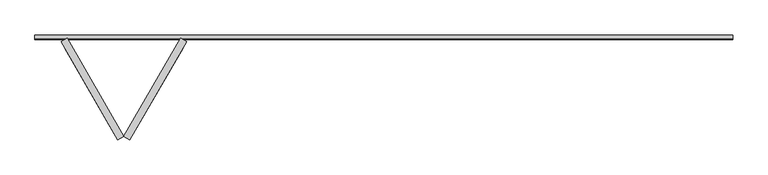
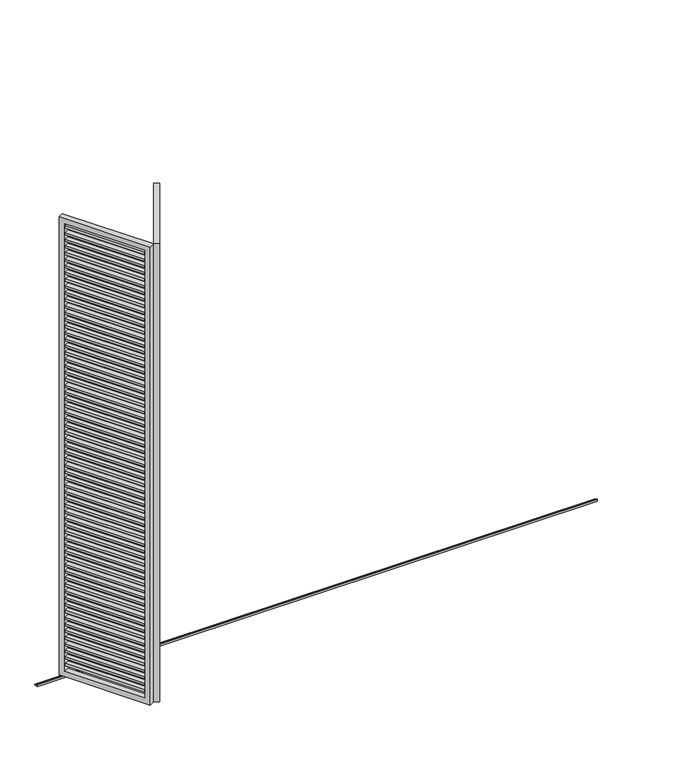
"""IFC4 building model written with IfcOpenShell, lengths in millimetres: proxy geometry, Renson_Amani_Loggia_Plano_Folding : Renson_Amani_Loggia_Plano_Folding."""

from ifc_helpers import new_model, si_unit, frame, origin, place, context, project, spatial, polyline, outline, extrude, source, transform, mapped, element, save


def generic_models_aa4b12a0(model_context):
    return source(origin(), model_context, "Body", "SweptSolid", [
        extrude(outline(polyline([(667.6721051, 546.5254963), (696.2509434, 530.0254963), (411.2509434, 36.3910162), (382.6721051, 52.8910162), (667.6721051, 546.5254963)])), frame((0.0, 0.0, 2727.0), z_axis=(0.0, 0.0, 1.0), x_axis=(1.0, 0.0, 0.0)), (0.0, 0.0, 1.0), 16.0),
        extrude(outline(polyline([(667.6721051, 546.5254963), (696.2509434, 530.0254963), (411.2509434, 36.3910162), (382.6721051, 52.8910162), (667.6721051, 546.5254963)])), frame((0.0, 0.0, 2677.0), z_axis=(0.0, 0.0, 1.0), x_axis=(1.0, 0.0, 0.0)), (0.0, 0.0, 1.0), 16.0),
        extrude(outline(polyline([(667.6721051, 546.5254963), (696.2509434, 530.0254963), (411.2509434, 36.3910162), (382.6721051, 52.8910162), (667.6721051, 546.5254963)])), frame((0.0, 0.0, 2627.0), z_axis=(0.0, 0.0, 1.0), x_axis=(1.0, 0.0, 0.0)), (0.0, 0.0, 1.0), 16.0),
        extrude(outline(polyline([(667.6721051, 546.5254963), (696.2509434, 530.0254963), (411.2509434, 36.3910162), (382.6721051, 52.8910162), (667.6721051, 546.5254963)])), frame((0.0, 0.0, 2577.0), z_axis=(0.0, 0.0, 1.0), x_axis=(1.0, 0.0, 0.0)), (0.0, 0.0, 1.0), 16.0),
        extrude(outline(polyline([(667.6721051, 546.5254963), (696.2509434, 530.0254963), (411.2509434, 36.3910162), (382.6721051, 52.8910162), (667.6721051, 546.5254963)])), frame((0.0, 0.0, 2527.0), z_axis=(0.0, 0.0, 1.0), x_axis=(1.0, 0.0, 0.0)), (0.0, 0.0, 1.0), 16.0),
        extrude(outline(polyline([(667.6721051, 546.5254963), (696.2509434, 530.0254963), (411.2509434, 36.3910162), (382.6721051, 52.8910162), (667.6721051, 546.5254963)])), frame((0.0, 0.0, 2477.0), z_axis=(0.0, 0.0, 1.0), x_axis=(1.0, 0.0, 0.0)), (0.0, 0.0, 1.0), 16.0),
        extrude(outline(polyline([(667.6721051, 546.5254963), (696.2509434, 530.0254963), (411.2509434, 36.3910162), (382.6721051, 52.8910162), (667.6721051, 546.5254963)])), frame((0.0, 0.0, 2427.0), z_axis=(0.0, 0.0, 1.0), x_axis=(1.0, 0.0, 0.0)), (0.0, 0.0, 1.0), 16.0),
        extrude(outline(polyline([(667.6721051, 546.5254963), (696.2509434, 530.0254963), (411.2509434, 36.3910162), (382.6721051, 52.8910162), (667.6721051, 546.5254963)])), frame((0.0, 0.0, 2377.0), z_axis=(0.0, 0.0, 1.0), x_axis=(1.0, 0.0, 0.0)), (0.0, 0.0, 1.0), 16.0),
        extrude(outline(polyline([(667.6721051, 546.5254963), (696.2509434, 530.0254963), (411.2509434, 36.3910162), (382.6721051, 52.8910162), (667.6721051, 546.5254963)])), frame((0.0, 0.0, 2327.0), z_axis=(0.0, 0.0, 1.0), x_axis=(1.0, 0.0, 0.0)), (0.0, 0.0, 1.0), 16.0),
        extrude(outline(polyline([(667.6721051, 546.5254963), (696.2509434, 530.0254963), (411.2509434, 36.3910162), (382.6721051, 52.8910162), (667.6721051, 546.5254963)])), frame((0.0, 0.0, 2277.0), z_axis=(0.0, 0.0, 1.0), x_axis=(1.0, 0.0, 0.0)), (0.0, 0.0, 1.0), 16.0),
        extrude(outline(polyline([(667.6721051, 546.5254963), (696.2509434, 530.0254963), (411.2509434, 36.3910162), (382.6721051, 52.8910162), (667.6721051, 546.5254963)])), frame((0.0, 0.0, 2227.0), z_axis=(0.0, 0.0, 1.0), x_axis=(1.0, 0.0, 0.0)), (0.0, 0.0, 1.0), 16.0),
        extrude(outline(polyline([(667.6721051, 546.5254963), (696.2509434, 530.0254963), (411.2509434, 36.3910162), (382.6721051, 52.8910162), (667.6721051, 546.5254963)])), frame((0.0, 0.0, 2177.0), z_axis=(0.0, 0.0, 1.0), x_axis=(1.0, 0.0, 0.0)), (0.0, 0.0, 1.0), 16.0),
        extrude(outline(polyline([(667.6721051, 546.5254963), (696.2509434, 530.0254963), (411.2509434, 36.3910162), (382.6721051, 52.8910162), (667.6721051, 546.5254963)])), frame((0.0, 0.0, 2127.0), z_axis=(0.0, 0.0, 1.0), x_axis=(1.0, 0.0, 0.0)), (0.0, 0.0, 1.0), 16.0),
        extrude(outline(polyline([(667.6721051, 546.5254963), (696.2509434, 530.0254963), (411.2509434, 36.3910162), (382.6721051, 52.8910162), (667.6721051, 546.5254963)])), frame((0.0, 0.0, 2077.0), z_axis=(0.0, 0.0, 1.0), x_axis=(1.0, 0.0, 0.0)), (0.0, 0.0, 1.0), 16.0),
        extrude(outline(polyline([(667.6721051, 546.5254963), (696.2509434, 530.0254963), (411.2509434, 36.3910162), (382.6721051, 52.8910162), (667.6721051, 546.5254963)])), frame((0.0, 0.0, 2027.0), z_axis=(0.0, 0.0, 1.0), x_axis=(1.0, 0.0, 0.0)), (0.0, 0.0, 1.0), 16.0),
        extrude(outline(polyline([(667.6721051, 546.5254963), (696.2509434, 530.0254963), (411.2509434, 36.3910162), (382.6721051, 52.8910162), (667.6721051, 546.5254963)])), frame((0.0, 0.0, 1977.0), z_axis=(0.0, 0.0, 1.0), x_axis=(1.0, 0.0, 0.0)), (0.0, 0.0, 1.0), 16.0),
        extrude(outline(polyline([(667.6721051, 546.5254963), (696.2509434, 530.0254963), (411.2509434, 36.3910162), (382.6721051, 52.8910162), (667.6721051, 546.5254963)])), frame((0.0, 0.0, 1927.0), z_axis=(0.0, 0.0, 1.0), x_axis=(1.0, 0.0, 0.0)), (0.0, 0.0, 1.0), 16.0),
        extrude(outline(polyline([(667.6721051, 546.5254963), (696.2509434, 530.0254963), (411.2509434, 36.3910162), (382.6721051, 52.8910162), (667.6721051, 546.5254963)])), frame((0.0, 0.0, 1877.0), z_axis=(0.0, 0.0, 1.0), x_axis=(1.0, 0.0, 0.0)), (0.0, 0.0, 1.0), 16.0),
        extrude(outline(polyline([(667.6721051, 546.5254963), (696.2509434, 530.0254963), (411.2509434, 36.3910162), (382.6721051, 52.8910162), (667.6721051, 546.5254963)])), frame((0.0, 0.0, 1827.0), z_axis=(0.0, 0.0, 1.0), x_axis=(1.0, 0.0, 0.0)), (0.0, 0.0, 1.0), 16.0),
        extrude(outline(polyline([(667.6721051, 546.5254963), (696.2509434, 530.0254963), (411.2509434, 36.3910162), (382.6721051, 52.8910162), (667.6721051, 546.5254963)])), frame((0.0, 0.0, 1777.0), z_axis=(0.0, 0.0, 1.0), x_axis=(1.0, 0.0, 0.0)), (0.0, 0.0, 1.0), 16.0),
        extrude(outline(polyline([(667.6721051, 546.5254963), (696.2509434, 530.0254963), (411.2509434, 36.3910162), (382.6721051, 52.8910162), (667.6721051, 546.5254963)])), frame((0.0, 0.0, 1727.0), z_axis=(0.0, 0.0, 1.0), x_axis=(1.0, 0.0, 0.0)), (0.0, 0.0, 1.0), 16.0),
        extrude(outline(polyline([(667.6721051, 546.5254963), (696.2509434, 530.0254963), (411.2509434, 36.3910162), (382.6721051, 52.8910162), (667.6721051, 546.5254963)])), frame((0.0, 0.0, 1677.0), z_axis=(0.0, 0.0, 1.0), x_axis=(1.0, 0.0, 0.0)), (0.0, 0.0, 1.0), 16.0),
        extrude(outline(polyline([(667.6721051, 546.5254963), (696.2509434, 530.0254963), (411.2509434, 36.3910162), (382.6721051, 52.8910162), (667.6721051, 546.5254963)])), frame((0.0, 0.0, 1627.0), z_axis=(0.0, 0.0, 1.0), x_axis=(1.0, 0.0, 0.0)), (0.0, 0.0, 1.0), 16.0),
        extrude(outline(polyline([(667.6721051, 546.5254963), (696.2509434, 530.0254963), (411.2509434, 36.3910162), (382.6721051, 52.8910162), (667.6721051, 546.5254963)])), frame((0.0, 0.0, 1577.0), z_axis=(0.0, 0.0, 1.0), x_axis=(1.0, 0.0, 0.0)), (0.0, 0.0, 1.0), 16.0),
        extrude(outline(polyline([(667.6721051, 546.5254963), (696.2509434, 530.0254963), (411.2509434, 36.3910162), (382.6721051, 52.8910162), (667.6721051, 546.5254963)])), frame((0.0, 0.0, 1527.0), z_axis=(0.0, 0.0, 1.0), x_axis=(1.0, 0.0, 0.0)), (0.0, 0.0, 1.0), 16.0),
        extrude(outline(polyline([(667.6721051, 546.5254963), (696.2509434, 530.0254963), (411.2509434, 36.3910162), (382.6721051, 52.8910162), (667.6721051, 546.5254963)])), frame((0.0, 0.0, 1477.0), z_axis=(0.0, 0.0, 1.0), x_axis=(1.0, 0.0, 0.0)), (0.0, 0.0, 1.0), 16.0),
        extrude(outline(polyline([(667.6721051, 546.5254963), (696.2509434, 530.0254963), (411.2509434, 36.3910162), (382.6721051, 52.8910162), (667.6721051, 546.5254963)])), frame((0.0, 0.0, 1427.0), z_axis=(0.0, 0.0, 1.0), x_axis=(1.0, 0.0, 0.0)), (0.0, 0.0, 1.0), 16.0),
        extrude(outline(polyline([(667.6721051, 546.5254963), (696.2509434, 530.0254963), (411.2509434, 36.3910162), (382.6721051, 52.8910162), (667.6721051, 546.5254963)])), frame((0.0, 0.0, 1377.0), z_axis=(0.0, 0.0, 1.0), x_axis=(1.0, 0.0, 0.0)), (0.0, 0.0, 1.0), 16.0),
        extrude(outline(polyline([(667.6721051, 546.5254963), (696.2509434, 530.0254963), (411.2509434, 36.3910162), (382.6721051, 52.8910162), (667.6721051, 546.5254963)])), frame((0.0, 0.0, 1327.0), z_axis=(0.0, 0.0, 1.0), x_axis=(1.0, 0.0, 0.0)), (0.0, 0.0, 1.0), 16.0),
        extrude(outline(polyline([(667.6721051, 546.5254963), (696.2509434, 530.0254963), (411.2509434, 36.3910162), (382.6721051, 52.8910162), (667.6721051, 546.5254963)])), frame((0.0, 0.0, 1277.0), z_axis=(0.0, 0.0, 1.0), x_axis=(1.0, 0.0, 0.0)), (0.0, 0.0, 1.0), 16.0),
        extrude(outline(polyline([(667.6721051, 546.5254963), (696.2509434, 530.0254963), (411.2509434, 36.3910162), (382.6721051, 52.8910162), (667.6721051, 546.5254963)])), frame((0.0, 0.0, 1227.0), z_axis=(0.0, 0.0, 1.0), x_axis=(1.0, 0.0, 0.0)), (0.0, 0.0, 1.0), 16.0),
        extrude(outline(polyline([(667.6721051, 546.5254963), (696.2509434, 530.0254963), (411.2509434, 36.3910162), (382.6721051, 52.8910162), (667.6721051, 546.5254963)])), frame((0.0, 0.0, 1177.0), z_axis=(0.0, 0.0, 1.0), x_axis=(1.0, 0.0, 0.0)), (0.0, 0.0, 1.0), 16.0),
        extrude(outline(polyline([(667.6721051, 546.5254963), (696.2509434, 530.0254963), (411.2509434, 36.3910162), (382.6721051, 52.8910162), (667.6721051, 546.5254963)])), frame((0.0, 0.0, 1127.0), z_axis=(0.0, 0.0, 1.0), x_axis=(1.0, 0.0, 0.0)), (0.0, 0.0, 1.0), 16.0),
        extrude(outline(polyline([(667.6721051, 546.5254963), (696.2509434, 530.0254963), (411.2509434, 36.3910162), (382.6721051, 52.8910162), (667.6721051, 546.5254963)])), frame((0.0, 0.0, 1077.0), z_axis=(0.0, 0.0, 1.0), x_axis=(1.0, 0.0, 0.0)), (0.0, 0.0, 1.0), 16.0),
        extrude(outline(polyline([(667.6721051, 546.5254963), (696.2509434, 530.0254963), (411.2509434, 36.3910162), (382.6721051, 52.8910162), (667.6721051, 546.5254963)])), frame((0.0, 0.0, 1027.0), z_axis=(0.0, 0.0, 1.0), x_axis=(1.0, 0.0, 0.0)), (0.0, 0.0, 1.0), 16.0),
        extrude(outline(polyline([(667.6721051, 546.5254963), (696.2509434, 530.0254963), (411.2509434, 36.3910162), (382.6721051, 52.8910162), (667.6721051, 546.5254963)])), frame((0.0, 0.0, 977.0), z_axis=(0.0, 0.0, 1.0), x_axis=(1.0, 0.0, 0.0)), (0.0, 0.0, 1.0), 16.0),
        extrude(outline(polyline([(667.6721051, 546.5254963), (696.2509434, 530.0254963), (411.2509434, 36.3910162), (382.6721051, 52.8910162), (667.6721051, 546.5254963)])), frame((0.0, 0.0, 927.0), z_axis=(0.0, 0.0, 1.0), x_axis=(1.0, 0.0, 0.0)), (0.0, 0.0, 1.0), 16.0),
        extrude(outline(polyline([(667.6721051, 546.5254963), (696.2509434, 530.0254963), (411.2509434, 36.3910162), (382.6721051, 52.8910162), (667.6721051, 546.5254963)])), frame((0.0, 0.0, 877.0), z_axis=(0.0, 0.0, 1.0), x_axis=(1.0, 0.0, 0.0)), (0.0, 0.0, 1.0), 16.0),
        extrude(outline(polyline([(667.6721051, 546.5254963), (696.2509434, 530.0254963), (411.2509434, 36.3910162), (382.6721051, 52.8910162), (667.6721051, 546.5254963)])), frame((0.0, 0.0, 827.0), z_axis=(0.0, 0.0, 1.0), x_axis=(1.0, 0.0, 0.0)), (0.0, 0.0, 1.0), 16.0),
        extrude(outline(polyline([(667.6721051, 546.5254963), (696.2509434, 530.0254963), (411.2509434, 36.3910162), (382.6721051, 52.8910162), (667.6721051, 546.5254963)])), frame((0.0, 0.0, 777.0), z_axis=(0.0, 0.0, 1.0), x_axis=(1.0, 0.0, 0.0)), (0.0, 0.0, 1.0), 16.0),
        extrude(outline(polyline([(667.6721051, 546.5254963), (696.2509434, 530.0254963), (411.2509434, 36.3910162), (382.6721051, 52.8910162), (667.6721051, 546.5254963)])), frame((0.0, 0.0, 727.0), z_axis=(0.0, 0.0, 1.0), x_axis=(1.0, 0.0, 0.0)), (0.0, 0.0, 1.0), 16.0),
        extrude(outline(polyline([(667.6721051, 546.5254963), (696.2509434, 530.0254963), (411.2509434, 36.3910162), (382.6721051, 52.8910162), (667.6721051, 546.5254963)])), frame((0.0, 0.0, 677.0), z_axis=(0.0, 0.0, 1.0), x_axis=(1.0, 0.0, 0.0)), (0.0, 0.0, 1.0), 16.0),
        extrude(outline(polyline([(667.6721051, 546.5254963), (696.2509434, 530.0254963), (411.2509434, 36.3910162), (382.6721051, 52.8910162), (667.6721051, 546.5254963)])), frame((0.0, 0.0, 627.0), z_axis=(0.0, 0.0, 1.0), x_axis=(1.0, 0.0, 0.0)), (0.0, 0.0, 1.0), 16.0),
        extrude(outline(polyline([(667.6721051, 546.5254963), (696.2509434, 530.0254963), (411.2509434, 36.3910162), (382.6721051, 52.8910162), (667.6721051, 546.5254963)])), frame((0.0, 0.0, 577.0), z_axis=(0.0, 0.0, 1.0), x_axis=(1.0, 0.0, 0.0)), (0.0, 0.0, 1.0), 16.0),
        extrude(outline(polyline([(667.6721051, 546.5254963), (696.2509434, 530.0254963), (411.2509434, 36.3910162), (382.6721051, 52.8910162), (667.6721051, 546.5254963)])), frame((0.0, 0.0, 527.0), z_axis=(0.0, 0.0, 1.0), x_axis=(1.0, 0.0, 0.0)), (0.0, 0.0, 1.0), 16.0),
        extrude(outline(polyline([(667.6721051, 546.5254963), (696.2509434, 530.0254963), (411.2509434, 36.3910162), (382.6721051, 52.8910162), (667.6721051, 546.5254963)])), frame((0.0, 0.0, 477.0), z_axis=(0.0, 0.0, 1.0), x_axis=(1.0, 0.0, 0.0)), (0.0, 0.0, 1.0), 16.0),
        extrude(outline(polyline([(667.6721051, 546.5254963), (696.2509434, 530.0254963), (411.2509434, 36.3910162), (382.6721051, 52.8910162), (667.6721051, 546.5254963)])), frame((0.0, 0.0, 427.0), z_axis=(0.0, 0.0, 1.0), x_axis=(1.0, 0.0, 0.0)), (0.0, 0.0, 1.0), 16.0),
        extrude(outline(polyline([(667.6721051, 546.5254963), (696.2509434, 530.0254963), (411.2509434, 36.3910162), (382.6721051, 52.8910162), (667.6721051, 546.5254963)])), frame((0.0, 0.0, 377.0), z_axis=(0.0, 0.0, 1.0), x_axis=(1.0, 0.0, 0.0)), (0.0, 0.0, 1.0), 16.0),
        extrude(outline(polyline([(667.6721051, 546.5254963), (696.2509434, 530.0254963), (411.2509434, 36.3910162), (382.6721051, 52.8910162), (667.6721051, 546.5254963)])), frame((0.0, 0.0, 327.0), z_axis=(0.0, 0.0, 1.0), x_axis=(1.0, 0.0, 0.0)), (0.0, 0.0, 1.0), 16.0),
        extrude(outline(polyline([(667.6721051, 546.5254963), (696.2509434, 530.0254963), (411.2509434, 36.3910162), (382.6721051, 52.8910162), (667.6721051, 546.5254963)])), frame((0.0, 0.0, 277.0), z_axis=(0.0, 0.0, 1.0), x_axis=(1.0, 0.0, 0.0)), (0.0, 0.0, 1.0), 16.0),
        extrude(outline(polyline([(667.6721051, 546.5254963), (696.2509434, 530.0254963), (411.2509434, 36.3910162), (382.6721051, 52.8910162), (667.6721051, 546.5254963)])), frame((0.0, 0.0, 227.0), z_axis=(0.0, 0.0, 1.0), x_axis=(1.0, 0.0, 0.0)), (0.0, 0.0, 1.0), 16.0),
        extrude(outline(polyline([(667.6721051, 546.5254963), (696.2509434, 530.0254963), (411.2509434, 36.3910162), (382.6721051, 52.8910162), (667.6721051, 546.5254963)])), frame((0.0, 0.0, 177.0), z_axis=(0.0, 0.0, 1.0), x_axis=(1.0, 0.0, 0.0)), (0.0, 0.0, 1.0), 16.0),
        extrude(outline(polyline([(667.6721051, 546.5254963), (696.2509434, 530.0254963), (411.2509434, 36.3910162), (382.6721051, 52.8910162), (667.6721051, 546.5254963)])), frame((0.0, 0.0, 127.0), z_axis=(0.0, 0.0, 1.0), x_axis=(1.0, 0.0, 0.0)), (0.0, 0.0, 1.0), 16.0),
        extrude(outline(polyline([(3415.0, -40.0), (-40.0, -40.0), (-40.0, 610.0), (3415.0, 610.0), (3415.0, -40.0)]), holes=[polyline([(3375.0, 570.0), (0.0, 570.0), (0.0, 0.0), (3375.0, 0.0), (3375.0, 570.0)])]), frame((414.2820323, 34.6410162, 85.0), z_axis=(-0.8660254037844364, 0.5000000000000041, 0.0), x_axis=(0.0, 0.0, 1.0)), (0.0, 0.0, 1.0), 40.0),
        extrude(outline(polyline([(336.6099272, 52.8910162), (308.0310889, 36.3910162), (23.0310889, 530.0254963), (51.6099272, 546.5254963), (336.6099272, 52.8910162)])), frame((0.0, 0.0, 3427.0), z_axis=(0.0, 0.0, 1.0), x_axis=(1.0, 0.0, 0.0)), (0.0, 0.0, 1.0), 16.0),
        extrude(outline(polyline([(336.6099272, 52.8910162), (308.0310889, 36.3910162), (23.0310889, 530.0254963), (51.6099272, 546.5254963), (336.6099272, 52.8910162)])), frame((0.0, 0.0, 3377.0), z_axis=(0.0, 0.0, 1.0), x_axis=(1.0, 0.0, 0.0)), (0.0, 0.0, 1.0), 16.0),
        extrude(outline(polyline([(336.6099272, 52.8910162), (308.0310889, 36.3910162), (23.0310889, 530.0254963), (51.6099272, 546.5254963), (336.6099272, 52.8910162)])), frame((0.0, 0.0, 3327.0), z_axis=(0.0, 0.0, 1.0), x_axis=(1.0, 0.0, 0.0)), (0.0, 0.0, 1.0), 16.0),
        extrude(outline(polyline([(336.6099272, 52.8910162), (308.0310889, 36.3910162), (23.0310889, 530.0254963), (51.6099272, 546.5254963), (336.6099272, 52.8910162)])), frame((0.0, 0.0, 3277.0), z_axis=(0.0, 0.0, 1.0), x_axis=(1.0, 0.0, 0.0)), (0.0, 0.0, 1.0), 16.0),
        extrude(outline(polyline([(336.6099272, 52.8910162), (308.0310889, 36.3910162), (23.0310889, 530.0254963), (51.6099272, 546.5254963), (336.6099272, 52.8910162)])), frame((0.0, 0.0, 3227.0), z_axis=(0.0, 0.0, 1.0), x_axis=(1.0, 0.0, 0.0)), (0.0, 0.0, 1.0), 16.0),
        extrude(outline(polyline([(336.6099272, 52.8910162), (308.0310889, 36.3910162), (23.0310889, 530.0254963), (51.6099272, 546.5254963), (336.6099272, 52.8910162)])), frame((0.0, 0.0, 3177.0), z_axis=(0.0, 0.0, 1.0), x_axis=(1.0, 0.0, 0.0)), (0.0, 0.0, 1.0), 16.0),
        extrude(outline(polyline([(336.6099272, 52.8910162), (308.0310889, 36.3910162), (23.0310889, 530.0254963), (51.6099272, 546.5254963), (336.6099272, 52.8910162)])), frame((0.0, 0.0, 3127.0), z_axis=(0.0, 0.0, 1.0), x_axis=(1.0, 0.0, 0.0)), (0.0, 0.0, 1.0), 16.0),
        extrude(outline(polyline([(336.6099272, 52.8910162), (308.0310889, 36.3910162), (23.0310889, 530.0254963), (51.6099272, 546.5254963), (336.6099272, 52.8910162)])), frame((0.0, 0.0, 3077.0), z_axis=(0.0, 0.0, 1.0), x_axis=(1.0, 0.0, 0.0)), (0.0, 0.0, 1.0), 16.0),
        extrude(outline(polyline([(336.6099272, 52.8910162), (308.0310889, 36.3910162), (23.0310889, 530.0254963), (51.6099272, 546.5254963), (336.6099272, 52.8910162)])), frame((0.0, 0.0, 3027.0), z_axis=(0.0, 0.0, 1.0), x_axis=(1.0, 0.0, 0.0)), (0.0, 0.0, 1.0), 16.0),
        extrude(outline(polyline([(336.6099272, 52.8910162), (308.0310889, 36.3910162), (23.0310889, 530.0254963), (51.6099272, 546.5254963), (336.6099272, 52.8910162)])), frame((0.0, 0.0, 2977.0), z_axis=(0.0, 0.0, 1.0), x_axis=(1.0, 0.0, 0.0)), (0.0, 0.0, 1.0), 16.0),
        extrude(outline(polyline([(336.6099272, 52.8910162), (308.0310889, 36.3910162), (23.0310889, 530.0254963), (51.6099272, 546.5254963), (336.6099272, 52.8910162)])), frame((0.0, 0.0, 2927.0), z_axis=(0.0, 0.0, 1.0), x_axis=(1.0, 0.0, 0.0)), (0.0, 0.0, 1.0), 16.0),
        extrude(outline(polyline([(336.6099272, 52.8910162), (308.0310889, 36.3910162), (23.0310889, 530.0254963), (51.6099272, 546.5254963), (336.6099272, 52.8910162)])), frame((0.0, 0.0, 2877.0), z_axis=(0.0, 0.0, 1.0), x_axis=(1.0, 0.0, 0.0)), (0.0, 0.0, 1.0), 16.0),
        extrude(outline(polyline([(336.6099272, 52.8910162), (308.0310889, 36.3910162), (23.0310889, 530.0254963), (51.6099272, 546.5254963), (336.6099272, 52.8910162)])), frame((0.0, 0.0, 2827.0), z_axis=(0.0, 0.0, 1.0), x_axis=(1.0, 0.0, 0.0)), (0.0, 0.0, 1.0), 16.0),
        extrude(outline(polyline([(336.6099272, 52.8910162), (308.0310889, 36.3910162), (23.0310889, 530.0254963), (51.6099272, 546.5254963), (336.6099272, 52.8910162)])), frame((0.0, 0.0, 2777.0), z_axis=(0.0, 0.0, 1.0), x_axis=(1.0, 0.0, 0.0)), (0.0, 0.0, 1.0), 16.0),
        extrude(outline(polyline([(336.6099272, 52.8910162), (308.0310889, 36.3910162), (23.0310889, 530.0254963), (51.6099272, 546.5254963), (336.6099272, 52.8910162)])), frame((0.0, 0.0, 2727.0), z_axis=(0.0, 0.0, 1.0), x_axis=(1.0, 0.0, 0.0)), (0.0, 0.0, 1.0), 16.0),
        extrude(outline(polyline([(336.6099272, 52.8910162), (308.0310889, 36.3910162), (23.0310889, 530.0254963), (51.6099272, 546.5254963), (336.6099272, 52.8910162)])), frame((0.0, 0.0, 2677.0), z_axis=(0.0, 0.0, 1.0), x_axis=(1.0, 0.0, 0.0)), (0.0, 0.0, 1.0), 16.0),
        extrude(outline(polyline([(336.6099272, 52.8910162), (308.0310889, 36.3910162), (23.0310889, 530.0254963), (51.6099272, 546.5254963), (336.6099272, 52.8910162)])), frame((0.0, 0.0, 2627.0), z_axis=(0.0, 0.0, 1.0), x_axis=(1.0, 0.0, 0.0)), (0.0, 0.0, 1.0), 16.0),
        extrude(outline(polyline([(336.6099272, 52.8910162), (308.0310889, 36.3910162), (23.0310889, 530.0254963), (51.6099272, 546.5254963), (336.6099272, 52.8910162)])), frame((0.0, 0.0, 2577.0), z_axis=(0.0, 0.0, 1.0), x_axis=(1.0, 0.0, 0.0)), (0.0, 0.0, 1.0), 16.0),
        extrude(outline(polyline([(336.6099272, 52.8910162), (308.0310889, 36.3910162), (23.0310889, 530.0254963), (51.6099272, 546.5254963), (336.6099272, 52.8910162)])), frame((0.0, 0.0, 2527.0), z_axis=(0.0, 0.0, 1.0), x_axis=(1.0, 0.0, 0.0)), (0.0, 0.0, 1.0), 16.0),
        extrude(outline(polyline([(336.6099272, 52.8910162), (308.0310889, 36.3910162), (23.0310889, 530.0254963), (51.6099272, 546.5254963), (336.6099272, 52.8910162)])), frame((0.0, 0.0, 2477.0), z_axis=(0.0, 0.0, 1.0), x_axis=(1.0, 0.0, 0.0)), (0.0, 0.0, 1.0), 16.0),
        extrude(outline(polyline([(336.6099272, 52.8910162), (308.0310889, 36.3910162), (23.0310889, 530.0254963), (51.6099272, 546.5254963), (336.6099272, 52.8910162)])), frame((0.0, 0.0, 2427.0), z_axis=(0.0, 0.0, 1.0), x_axis=(1.0, 0.0, 0.0)), (0.0, 0.0, 1.0), 16.0),
        extrude(outline(polyline([(336.6099272, 52.8910162), (308.0310889, 36.3910162), (23.0310889, 530.0254963), (51.6099272, 546.5254963), (336.6099272, 52.8910162)])), frame((0.0, 0.0, 2377.0), z_axis=(0.0, 0.0, 1.0), x_axis=(1.0, 0.0, 0.0)), (0.0, 0.0, 1.0), 16.0),
        extrude(outline(polyline([(336.6099272, 52.8910162), (308.0310889, 36.3910162), (23.0310889, 530.0254963), (51.6099272, 546.5254963), (336.6099272, 52.8910162)])), frame((0.0, 0.0, 2327.0), z_axis=(0.0, 0.0, 1.0), x_axis=(1.0, 0.0, 0.0)), (0.0, 0.0, 1.0), 16.0),
        extrude(outline(polyline([(336.6099272, 52.8910162), (308.0310889, 36.3910162), (23.0310889, 530.0254963), (51.6099272, 546.5254963), (336.6099272, 52.8910162)])), frame((0.0, 0.0, 2277.0), z_axis=(0.0, 0.0, 1.0), x_axis=(1.0, 0.0, 0.0)), (0.0, 0.0, 1.0), 16.0),
        extrude(outline(polyline([(336.6099272, 52.8910162), (308.0310889, 36.3910162), (23.0310889, 530.0254963), (51.6099272, 546.5254963), (336.6099272, 52.8910162)])), frame((0.0, 0.0, 2227.0), z_axis=(0.0, 0.0, 1.0), x_axis=(1.0, 0.0, 0.0)), (0.0, 0.0, 1.0), 16.0),
        extrude(outline(polyline([(336.6099272, 52.8910162), (308.0310889, 36.3910162), (23.0310889, 530.0254963), (51.6099272, 546.5254963), (336.6099272, 52.8910162)])), frame((0.0, 0.0, 2177.0), z_axis=(0.0, 0.0, 1.0), x_axis=(1.0, 0.0, 0.0)), (0.0, 0.0, 1.0), 16.0),
        extrude(outline(polyline([(336.6099272, 52.8910162), (308.0310889, 36.3910162), (23.0310889, 530.0254963), (51.6099272, 546.5254963), (336.6099272, 52.8910162)])), frame((0.0, 0.0, 2127.0), z_axis=(0.0, 0.0, 1.0), x_axis=(1.0, 0.0, 0.0)), (0.0, 0.0, 1.0), 16.0),
        extrude(outline(polyline([(336.6099272, 52.8910162), (308.0310889, 36.3910162), (23.0310889, 530.0254963), (51.6099272, 546.5254963), (336.6099272, 52.8910162)])), frame((0.0, 0.0, 2077.0), z_axis=(0.0, 0.0, 1.0), x_axis=(1.0, 0.0, 0.0)), (0.0, 0.0, 1.0), 16.0),
        extrude(outline(polyline([(336.6099272, 52.8910162), (308.0310889, 36.3910162), (23.0310889, 530.0254963), (51.6099272, 546.5254963), (336.6099272, 52.8910162)])), frame((0.0, 0.0, 2027.0), z_axis=(0.0, 0.0, 1.0), x_axis=(1.0, 0.0, 0.0)), (0.0, 0.0, 1.0), 16.0),
        extrude(outline(polyline([(336.6099272, 52.8910162), (308.0310889, 36.3910162), (23.0310889, 530.0254963), (51.6099272, 546.5254963), (336.6099272, 52.8910162)])), frame((0.0, 0.0, 1977.0), z_axis=(0.0, 0.0, 1.0), x_axis=(1.0, 0.0, 0.0)), (0.0, 0.0, 1.0), 16.0),
        extrude(outline(polyline([(336.6099272, 52.8910162), (308.0310889, 36.3910162), (23.0310889, 530.0254963), (51.6099272, 546.5254963), (336.6099272, 52.8910162)])), frame((0.0, 0.0, 1927.0), z_axis=(0.0, 0.0, 1.0), x_axis=(1.0, 0.0, 0.0)), (0.0, 0.0, 1.0), 16.0),
        extrude(outline(polyline([(336.6099272, 52.8910162), (308.0310889, 36.3910162), (23.0310889, 530.0254963), (51.6099272, 546.5254963), (336.6099272, 52.8910162)])), frame((0.0, 0.0, 1877.0), z_axis=(0.0, 0.0, 1.0), x_axis=(1.0, 0.0, 0.0)), (0.0, 0.0, 1.0), 16.0),
        extrude(outline(polyline([(336.6099272, 52.8910162), (308.0310889, 36.3910162), (23.0310889, 530.0254963), (51.6099272, 546.5254963), (336.6099272, 52.8910162)])), frame((0.0, 0.0, 1827.0), z_axis=(0.0, 0.0, 1.0), x_axis=(1.0, 0.0, 0.0)), (0.0, 0.0, 1.0), 16.0),
        extrude(outline(polyline([(336.6099272, 52.8910162), (308.0310889, 36.3910162), (23.0310889, 530.0254963), (51.6099272, 546.5254963), (336.6099272, 52.8910162)])), frame((0.0, 0.0, 1777.0), z_axis=(0.0, 0.0, 1.0), x_axis=(1.0, 0.0, 0.0)), (0.0, 0.0, 1.0), 16.0),
        extrude(outline(polyline([(336.6099272, 52.8910162), (308.0310889, 36.3910162), (23.0310889, 530.0254963), (51.6099272, 546.5254963), (336.6099272, 52.8910162)])), frame((0.0, 0.0, 1727.0), z_axis=(0.0, 0.0, 1.0), x_axis=(1.0, 0.0, 0.0)), (0.0, 0.0, 1.0), 16.0),
        extrude(outline(polyline([(336.6099272, 52.8910162), (308.0310889, 36.3910162), (23.0310889, 530.0254963), (51.6099272, 546.5254963), (336.6099272, 52.8910162)])), frame((0.0, 0.0, 1677.0), z_axis=(0.0, 0.0, 1.0), x_axis=(1.0, 0.0, 0.0)), (0.0, 0.0, 1.0), 16.0),
        extrude(outline(polyline([(336.6099272, 52.8910162), (308.0310889, 36.3910162), (23.0310889, 530.0254963), (51.6099272, 546.5254963), (336.6099272, 52.8910162)])), frame((0.0, 0.0, 1627.0), z_axis=(0.0, 0.0, 1.0), x_axis=(1.0, 0.0, 0.0)), (0.0, 0.0, 1.0), 16.0),
        extrude(outline(polyline([(336.6099272, 52.8910162), (308.0310889, 36.3910162), (23.0310889, 530.0254963), (51.6099272, 546.5254963), (336.6099272, 52.8910162)])), frame((0.0, 0.0, 1577.0), z_axis=(0.0, 0.0, 1.0), x_axis=(1.0, 0.0, 0.0)), (0.0, 0.0, 1.0), 16.0),
        extrude(outline(polyline([(336.6099272, 52.8910162), (308.0310889, 36.3910162), (23.0310889, 530.0254963), (51.6099272, 546.5254963), (336.6099272, 52.8910162)])), frame((0.0, 0.0, 1527.0), z_axis=(0.0, 0.0, 1.0), x_axis=(1.0, 0.0, 0.0)), (0.0, 0.0, 1.0), 16.0),
        extrude(outline(polyline([(336.6099272, 52.8910162), (308.0310889, 36.3910162), (23.0310889, 530.0254963), (51.6099272, 546.5254963), (336.6099272, 52.8910162)])), frame((0.0, 0.0, 1477.0), z_axis=(0.0, 0.0, 1.0), x_axis=(1.0, 0.0, 0.0)), (0.0, 0.0, 1.0), 16.0),
        extrude(outline(polyline([(336.6099272, 52.8910162), (308.0310889, 36.3910162), (23.0310889, 530.0254963), (51.6099272, 546.5254963), (336.6099272, 52.8910162)])), frame((0.0, 0.0, 1427.0), z_axis=(0.0, 0.0, 1.0), x_axis=(1.0, 0.0, 0.0)), (0.0, 0.0, 1.0), 16.0),
        extrude(outline(polyline([(336.6099272, 52.8910162), (308.0310889, 36.3910162), (23.0310889, 530.0254963), (51.6099272, 546.5254963), (336.6099272, 52.8910162)])), frame((0.0, 0.0, 1377.0), z_axis=(0.0, 0.0, 1.0), x_axis=(1.0, 0.0, 0.0)), (0.0, 0.0, 1.0), 16.0),
        extrude(outline(polyline([(336.6099272, 52.8910162), (308.0310889, 36.3910162), (23.0310889, 530.0254963), (51.6099272, 546.5254963), (336.6099272, 52.8910162)])), frame((0.0, 0.0, 1327.0), z_axis=(0.0, 0.0, 1.0), x_axis=(1.0, 0.0, 0.0)), (0.0, 0.0, 1.0), 16.0),
        extrude(outline(polyline([(336.6099272, 52.8910162), (308.0310889, 36.3910162), (23.0310889, 530.0254963), (51.6099272, 546.5254963), (336.6099272, 52.8910162)])), frame((0.0, 0.0, 1277.0), z_axis=(0.0, 0.0, 1.0), x_axis=(1.0, 0.0, 0.0)), (0.0, 0.0, 1.0), 16.0),
        extrude(outline(polyline([(336.6099272, 52.8910162), (308.0310889, 36.3910162), (23.0310889, 530.0254963), (51.6099272, 546.5254963), (336.6099272, 52.8910162)])), frame((0.0, 0.0, 1227.0), z_axis=(0.0, 0.0, 1.0), x_axis=(1.0, 0.0, 0.0)), (0.0, 0.0, 1.0), 16.0),
        extrude(outline(polyline([(336.6099272, 52.8910162), (308.0310889, 36.3910162), (23.0310889, 530.0254963), (51.6099272, 546.5254963), (336.6099272, 52.8910162)])), frame((0.0, 0.0, 1177.0), z_axis=(0.0, 0.0, 1.0), x_axis=(1.0, 0.0, 0.0)), (0.0, 0.0, 1.0), 16.0),
        extrude(outline(polyline([(336.6099272, 52.8910162), (308.0310889, 36.3910162), (23.0310889, 530.0254963), (51.6099272, 546.5254963), (336.6099272, 52.8910162)])), frame((0.0, 0.0, 1127.0), z_axis=(0.0, 0.0, 1.0), x_axis=(1.0, 0.0, 0.0)), (0.0, 0.0, 1.0), 16.0),
        extrude(outline(polyline([(336.6099272, 52.8910162), (308.0310889, 36.3910162), (23.0310889, 530.0254963), (51.6099272, 546.5254963), (336.6099272, 52.8910162)])), frame((0.0, 0.0, 1077.0), z_axis=(0.0, 0.0, 1.0), x_axis=(1.0, 0.0, 0.0)), (0.0, 0.0, 1.0), 16.0),
        extrude(outline(polyline([(336.6099272, 52.8910162), (308.0310889, 36.3910162), (23.0310889, 530.0254963), (51.6099272, 546.5254963), (336.6099272, 52.8910162)])), frame((0.0, 0.0, 1027.0), z_axis=(0.0, 0.0, 1.0), x_axis=(1.0, 0.0, 0.0)), (0.0, 0.0, 1.0), 16.0),
        extrude(outline(polyline([(336.6099272, 52.8910162), (308.0310889, 36.3910162), (23.0310889, 530.0254963), (51.6099272, 546.5254963), (336.6099272, 52.8910162)])), frame((0.0, 0.0, 977.0), z_axis=(0.0, 0.0, 1.0), x_axis=(1.0, 0.0, 0.0)), (0.0, 0.0, 1.0), 16.0),
        extrude(outline(polyline([(336.6099272, 52.8910162), (308.0310889, 36.3910162), (23.0310889, 530.0254963), (51.6099272, 546.5254963), (336.6099272, 52.8910162)])), frame((0.0, 0.0, 927.0), z_axis=(0.0, 0.0, 1.0), x_axis=(1.0, 0.0, 0.0)), (0.0, 0.0, 1.0), 16.0),
        extrude(outline(polyline([(336.6099272, 52.8910162), (308.0310889, 36.3910162), (23.0310889, 530.0254963), (51.6099272, 546.5254963), (336.6099272, 52.8910162)])), frame((0.0, 0.0, 877.0), z_axis=(0.0, 0.0, 1.0), x_axis=(1.0, 0.0, 0.0)), (0.0, 0.0, 1.0), 16.0),
        extrude(outline(polyline([(336.6099272, 52.8910162), (308.0310889, 36.3910162), (23.0310889, 530.0254963), (51.6099272, 546.5254963), (336.6099272, 52.8910162)])), frame((0.0, 0.0, 827.0), z_axis=(0.0, 0.0, 1.0), x_axis=(1.0, 0.0, 0.0)), (0.0, 0.0, 1.0), 16.0),
        extrude(outline(polyline([(336.6099272, 52.8910162), (308.0310889, 36.3910162), (23.0310889, 530.0254963), (51.6099272, 546.5254963), (336.6099272, 52.8910162)])), frame((0.0, 0.0, 777.0), z_axis=(0.0, 0.0, 1.0), x_axis=(1.0, 0.0, 0.0)), (0.0, 0.0, 1.0), 16.0),
        extrude(outline(polyline([(336.6099272, 52.8910162), (308.0310889, 36.3910162), (23.0310889, 530.0254963), (51.6099272, 546.5254963), (336.6099272, 52.8910162)])), frame((0.0, 0.0, 727.0), z_axis=(0.0, 0.0, 1.0), x_axis=(1.0, 0.0, 0.0)), (0.0, 0.0, 1.0), 16.0),
        extrude(outline(polyline([(336.6099272, 52.8910162), (308.0310889, 36.3910162), (23.0310889, 530.0254963), (51.6099272, 546.5254963), (336.6099272, 52.8910162)])), frame((0.0, 0.0, 677.0), z_axis=(0.0, 0.0, 1.0), x_axis=(1.0, 0.0, 0.0)), (0.0, 0.0, 1.0), 16.0),
        extrude(outline(polyline([(336.6099272, 52.8910162), (308.0310889, 36.3910162), (23.0310889, 530.0254963), (51.6099272, 546.5254963), (336.6099272, 52.8910162)])), frame((0.0, 0.0, 627.0), z_axis=(0.0, 0.0, 1.0), x_axis=(1.0, 0.0, 0.0)), (0.0, 0.0, 1.0), 16.0),
        extrude(outline(polyline([(336.6099272, 52.8910162), (308.0310889, 36.3910162), (23.0310889, 530.0254963), (51.6099272, 546.5254963), (336.6099272, 52.8910162)])), frame((0.0, 0.0, 577.0), z_axis=(0.0, 0.0, 1.0), x_axis=(1.0, 0.0, 0.0)), (0.0, 0.0, 1.0), 16.0),
        extrude(outline(polyline([(336.6099272, 52.8910162), (308.0310889, 36.3910162), (23.0310889, 530.0254963), (51.6099272, 546.5254963), (336.6099272, 52.8910162)])), frame((0.0, 0.0, 527.0), z_axis=(0.0, 0.0, 1.0), x_axis=(1.0, 0.0, 0.0)), (0.0, 0.0, 1.0), 16.0),
        extrude(outline(polyline([(336.6099272, 52.8910162), (308.0310889, 36.3910162), (23.0310889, 530.0254963), (51.6099272, 546.5254963), (336.6099272, 52.8910162)])), frame((0.0, 0.0, 477.0), z_axis=(0.0, 0.0, 1.0), x_axis=(1.0, 0.0, 0.0)), (0.0, 0.0, 1.0), 16.0),
        extrude(outline(polyline([(336.6099272, 52.8910162), (308.0310889, 36.3910162), (23.0310889, 530.0254963), (51.6099272, 546.5254963), (336.6099272, 52.8910162)])), frame((0.0, 0.0, 427.0), z_axis=(0.0, 0.0, 1.0), x_axis=(1.0, 0.0, 0.0)), (0.0, 0.0, 1.0), 16.0),
        extrude(outline(polyline([(336.6099272, 52.8910162), (308.0310889, 36.3910162), (23.0310889, 530.0254963), (51.6099272, 546.5254963), (336.6099272, 52.8910162)])), frame((0.0, 0.0, 377.0), z_axis=(0.0, 0.0, 1.0), x_axis=(1.0, 0.0, 0.0)), (0.0, 0.0, 1.0), 16.0),
        extrude(outline(polyline([(336.6099272, 52.8910162), (308.0310889, 36.3910162), (23.0310889, 530.0254963), (51.6099272, 546.5254963), (336.6099272, 52.8910162)])), frame((0.0, 0.0, 327.0), z_axis=(0.0, 0.0, 1.0), x_axis=(1.0, 0.0, 0.0)), (0.0, 0.0, 1.0), 16.0),
        extrude(outline(polyline([(336.6099272, 52.8910162), (308.0310889, 36.3910162), (23.0310889, 530.0254963), (51.6099272, 546.5254963), (336.6099272, 52.8910162)])), frame((0.0, 0.0, 277.0), z_axis=(0.0, 0.0, 1.0), x_axis=(1.0, 0.0, 0.0)), (0.0, 0.0, 1.0), 16.0),
        extrude(outline(polyline([(336.6099272, 52.8910162), (308.0310889, 36.3910162), (23.0310889, 530.0254963), (51.6099272, 546.5254963), (336.6099272, 52.8910162)])), frame((0.0, 0.0, 227.0), z_axis=(0.0, 0.0, 1.0), x_axis=(1.0, 0.0, 0.0)), (0.0, 0.0, 1.0), 16.0),
        extrude(outline(polyline([(336.6099272, 52.8910162), (308.0310889, 36.3910162), (23.0310889, 530.0254963), (51.6099272, 546.5254963), (336.6099272, 52.8910162)])), frame((0.0, 0.0, 177.0), z_axis=(0.0, 0.0, 1.0), x_axis=(1.0, 0.0, 0.0)), (0.0, 0.0, 1.0), 16.0),
        extrude(outline(polyline([(336.6099272, 52.8910162), (308.0310889, 36.3910162), (23.0310889, 530.0254963), (51.6099272, 546.5254963), (336.6099272, 52.8910162)])), frame((0.0, 0.0, 127.0), z_axis=(0.0, 0.0, 1.0), x_axis=(1.0, 0.0, 0.0)), (0.0, 0.0, 1.0), 16.0),
        extrude(outline(polyline([(3415.0, -40.0), (-40.0, -40.0), (-40.0, 610.0), (3415.0, 610.0), (3415.0, -40.0)]), holes=[polyline([(3375.0, 570.0), (0.0, 570.0), (0.0, 0.0), (3375.0, 0.0), (3375.0, 570.0)])]), frame((20.0, 528.2754963, 85.0), z_axis=(0.8660254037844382, 0.5000000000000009, 0.0), x_axis=(0.0, 0.0, 1.0)), (0.0, 0.0, 1.0), 40.0),
        extrude(outline(polyline([(576.9165125, 15.0), (579.9165125, 15.0), (579.9165125, 3.0), (602.9165125, 3.0), (602.9165125, 0.0), (576.9165125, 0.0), (576.9165125, 15.0)])), frame((-150.0, 0.0, 0.0), z_axis=(1.0, 0.0, 0.0), x_axis=(0.0, 1.0, 0.0)), (0.0, 0.0, 1.0), 4000.0),
    ])


if __name__ == "__main__":
    model = new_model("IFC4")
    model_context = context("Model", 3, world=origin())
    ifc_project = project(units=[si_unit("LENGTHUNIT", "METRE", prefix="MILLI")], contexts=[model_context])
    site = spatial("IfcSite", under=ifc_project)
    building = spatial("IfcBuilding", under=site)
    placement = place(None, origin())
    generic_models_shape = generic_models_aa4b12a0(model_context)
    element("IfcBuildingElementProxy", 1, Name="Renson_Amani_Loggia_Plano_Folding : Renson_Amani_Loggia_Plano_Folding", ObjectType="Renson_Amani_Loggia_Plano_Folding : Renson_Amani_Loggia_Plano_Folding", at=placement, inside=building, context=model_context, shape_type="MappedRepresentation", body=[
        mapped(generic_models_shape, transform((0.0, 0.0, 0.0), x_axis=(1.0, 0.0, 0.0), y_axis=(0.0, 1.0, 0.0), z_axis=(0.0, 0.0, 1.0))),
    ])
    save(model, "model.ifc")
